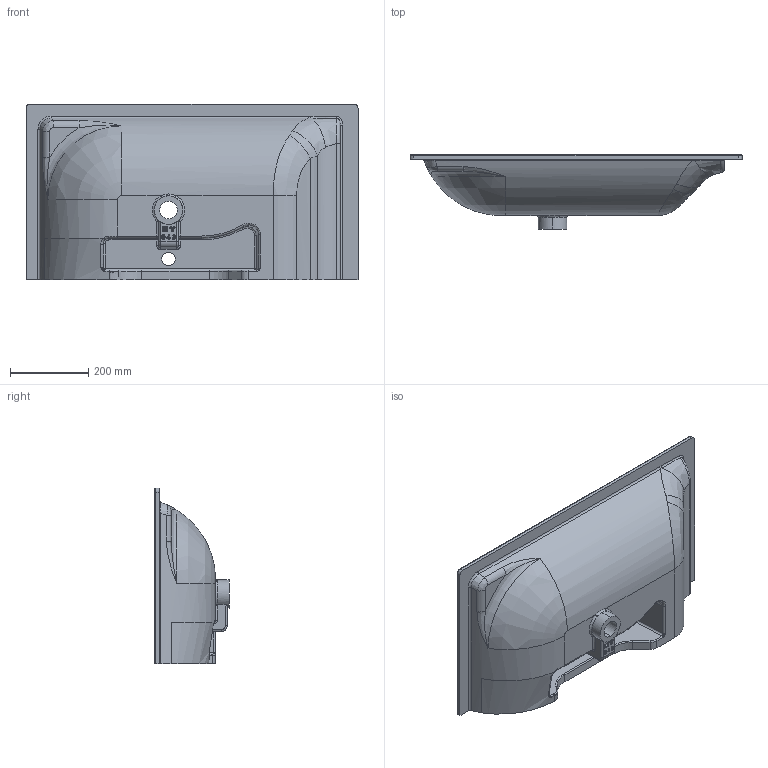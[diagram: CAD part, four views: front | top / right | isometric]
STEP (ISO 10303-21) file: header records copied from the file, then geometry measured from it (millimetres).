
FILE_DESCRIPTION (( 'STEP AP203' ), '1' );
FILE_NAME ('tp185.STEP', '2022-04-20T08:40:12', ( '' ), ( '' ), 'SwSTEP 2.0', 'SolidWorks 2021', '' );
FILE_SCHEMA (( 'CONFIG_CONTROL_DESIGN' ));
Length unit declared in the file: millimetre
Products named in the file (1): tp185
Bounding box: 850 x 190 x 450 mm (x, y, z)
Volume: 14732420.5 mm3; surface area: 1225733.2 mm2
Topology: 1 solids, 2 shells, 511 faces, 1206 edges, 659 vertices
Faces by surface type: cylinder 192, bspline 121, torus 90, plane 73, sphere 33, cone 2
Entity records: 28422 total; most frequent: CARTESIAN_POINT 17612, ORIENTED_EDGE 2318, DIRECTION 2175, EDGE_CURVE 1159, AXIS2_PLACEMENT_3D 892, VERTEX_POINT 658, EDGE_LOOP 521, ADVANCED_FACE 511
